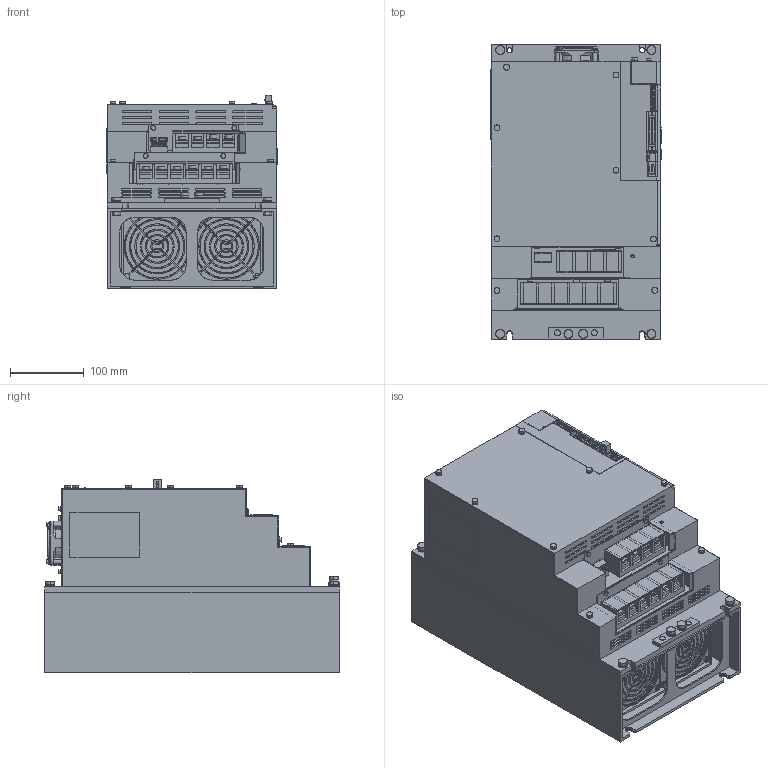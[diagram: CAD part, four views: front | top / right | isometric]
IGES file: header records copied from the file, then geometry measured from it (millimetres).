
Start section: SolidWorks IGES file using analytic representation for surfaces
Global section: file name: C:\YASKAWA\sgdv_370d0_a.IGS; native system: SolidWorks 2006 by SolidWorks Corporation; preprocessor: SolidWorks 2006 by SolidWorks Corporation; author: yamanouchi; date: 090513.221402; units: millimetre
Bounding box: 230.6 x 400 x 263 mm (x, y, z)
Surface area: 801045.7 mm2 (no closed solid volume)
Topology: 0 solids, 0 shells, 2747 faces, 31613 edges, 31613 vertices
Faces by surface type: bspline 2129, revolution 618
